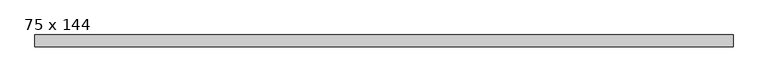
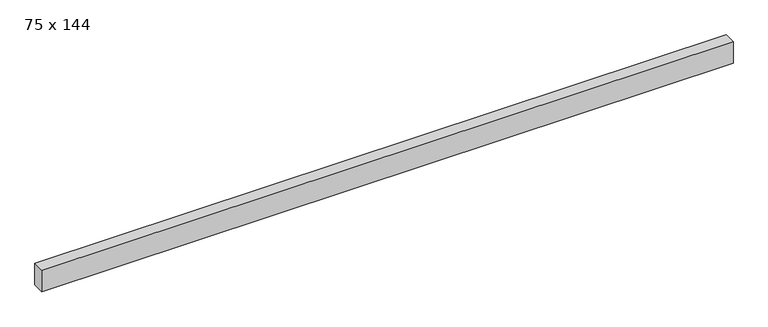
"""IFC4 building model written with IfcOpenShell, lengths in millimetres: beam geometry, C&L poutre bois : 75 x 144."""

from ifc_helpers import new_model, si_unit, frame, origin, place, context, project, spatial, polyline, outline, extrude, source, transform, mapped, element, save


def beam_75_x_144_8ba1cb35(model_context):
    return source(origin(), model_context, "Body", "SweptSolid", [
        extrude(outline(polyline([(2192.0, 37.5), (2192.0, -37.5), (-2192.0, -37.5), (-2192.0, 37.5), (2192.0, 37.5)])), frame((0.0, 0.0, -72.0), z_axis=(0.0, 0.0, 1.0), x_axis=(1.0, 0.0, 0.0)), (0.0, 0.0, 1.0), 144.0),
    ])


if __name__ == "__main__":
    model = new_model("IFC4")
    model_context = context("Model", 3, world=origin())
    ifc_project = project(units=[si_unit("LENGTHUNIT", "METRE", prefix="MILLI")], contexts=[model_context])
    site = spatial("IfcSite", under=ifc_project)
    building = spatial("IfcBuilding", under=site)
    placement = place(None, origin())
    beam_75_x_144_shape = beam_75_x_144_8ba1cb35(model_context)
    element("IfcBeam", 1, ObjectType="C&L poutre bois : 75 x 144", at=placement, inside=building, context=model_context, shape_type="MappedRepresentation", body=[
        mapped(beam_75_x_144_shape, transform((0.0, 0.0, 0.0), x_axis=(1.0, 0.0, 0.0), y_axis=(0.0, 1.0, 0.0), z_axis=(0.0, 0.0, 1.0))),
    ])
    save(model, "model.ifc")
